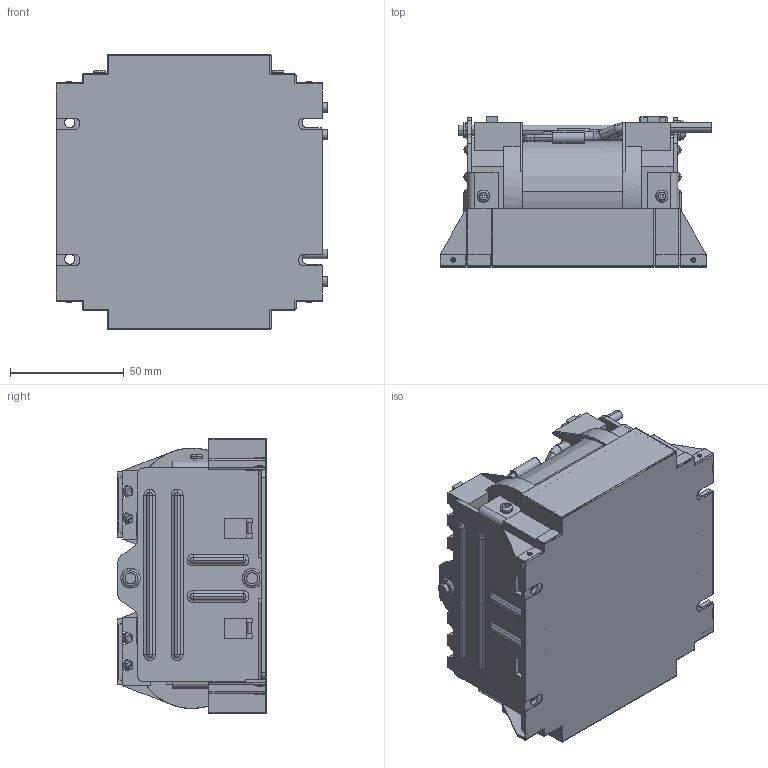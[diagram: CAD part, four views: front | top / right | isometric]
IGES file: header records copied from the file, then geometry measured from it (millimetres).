
Start section: SolidWorks IGES file using analytic representation for surfaces
Global section: file name: 40H\\10.106.230.1\R&D File\05_COMP\02_Mechanical\10_Others\PV_RT 81\网络用3D模型\半灌封模型\5KW_P_CB-DCL\SP11216B-PM00DS20R(M-5KW_CB-DCL-P).IGS; native system: SolidWorks 2009; preprocessor: SolidWorks 2009; author: Administrator; date: 120508.164659; units: millimetre
Bounding box: 119.5 x 65.9 x 121 mm (x, y, z)
Surface area: 187314.4 mm2 (no closed solid volume)
Topology: 0 solids, 0 shells, 1267 faces, 10193 edges, 10164 vertices
Faces by surface type: bspline 815, revolution 452
